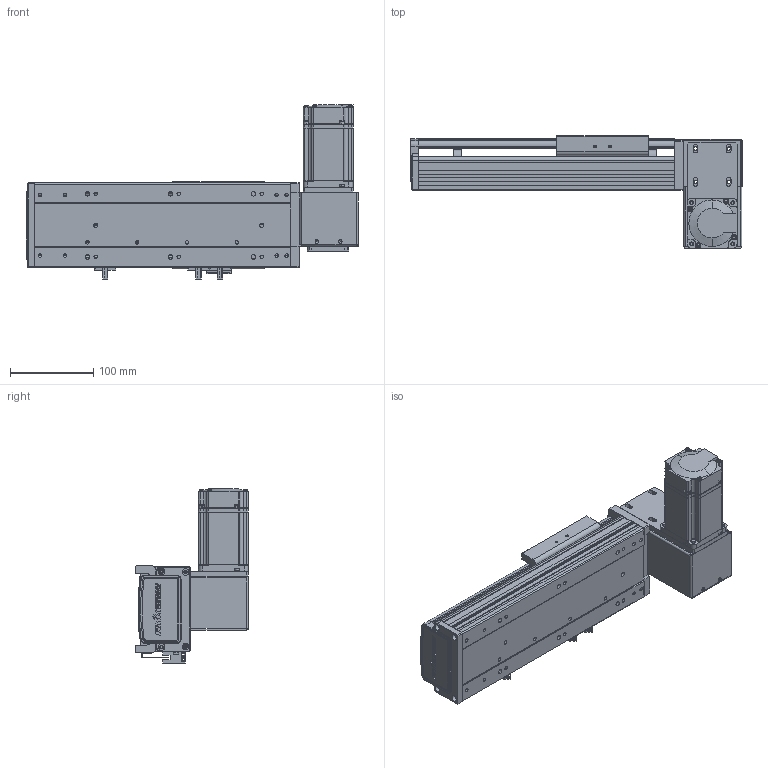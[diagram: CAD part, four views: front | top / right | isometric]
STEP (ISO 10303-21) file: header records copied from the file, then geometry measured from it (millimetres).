
FILE_DESCRIPTION (( 'STEP AP203' ), '1' );
FILE_NAME ('RY100-T-300-DR.SLDASM_100.step', '2024-04-25T03:21:42', ( '盈信电脑' ), ( '东莞市道滘镇水果街19号' ), 'SwSTEP 2.0', 'SolidWorks 2016', '' );
FILE_SCHEMA (( 'CONFIG_CONTROL_DESIGN' ));
Length unit declared in the file: millimetre
Products named in the file (16): RY100-T肮祭謫臏賑輸; RY100俋离覜茼え; RY100-T-300-DR.SLDASM_100; RY80-T肮祭謫狟殏俋欶; 1; RY100-T翋肮祭謫裔啣; RY100-T-300-RK倰第奻裔_100; 滅袉蝶18-10; RY100綴裔啣; RY100-T翋肮祭謫裔啣2; RY100-T左右折电机安装板; RY100-T-300-RK倰第菁釱_100; RY100-T粣創揤踡裔; 覜茼ん672; RY100-T肮祭謫翋盓傅釱; 侂狟200W萇儂
Assembly tree (19 placements, depth 3):
  RY100-T-300-DR.SLDASM_100
    RY100-T-300-RK倰第菁釱_100
    RY100-T-300-RK倰第奻裔_100
    RY100-T肮祭謫臏賑輸
    RY100綴裔啣
    覜茼ん672  x3
    RY100俋离覜茼え
    RY100-T肮祭謫翋盓傅釱
    RY100-T左右折电机安装板
    侂狟200W萇儂
      1
    RY100-T粣創揤踡裔
    滅袉蝶18-10  x2
    RY100-T翋肮祭謫裔啣2  x2
    RY100-T翋肮祭謫裔啣
    RY80-T肮祭謫狟殏俋欶
Bounding box: 400 x 135.5 x 209.7 mm (x, y, z)
Volume: 1207126.1 mm3; surface area: 453488.4 mm2
Topology: 18 solids, 18 shells, 2101 faces, 5789 edges, 3755 vertices
Faces by surface type: plane 1197, cylinder 703, cone 123, bspline 78
Entity records: 66050 total; most frequent: CARTESIAN_POINT 15570, ORIENTED_EDGE 10314, DIRECTION 9845, EDGE_CURVE 5157, LINE 3451, VECTOR 3451, VERTEX_POINT 3391, AXIS2_PLACEMENT_3D 3197
